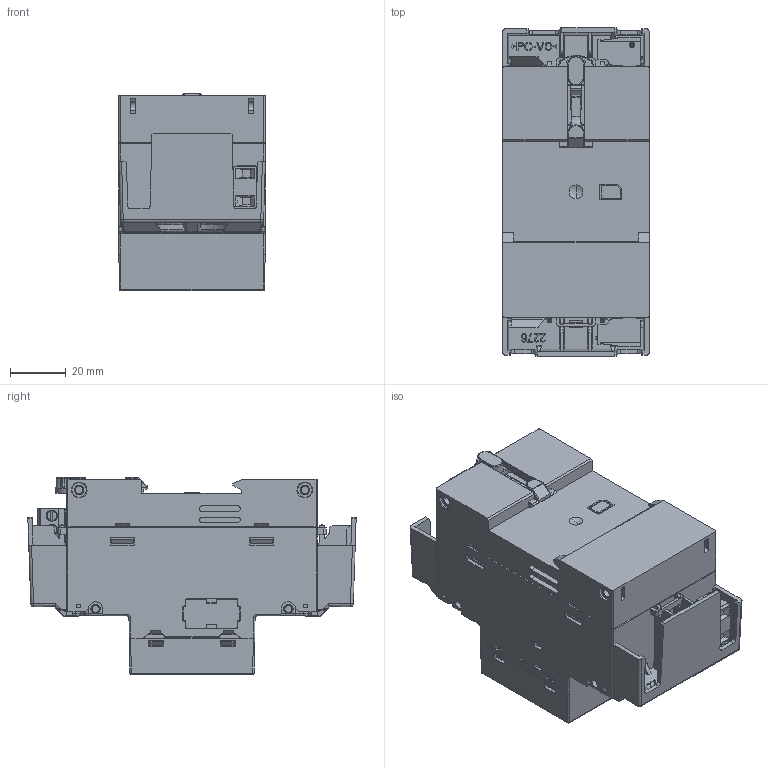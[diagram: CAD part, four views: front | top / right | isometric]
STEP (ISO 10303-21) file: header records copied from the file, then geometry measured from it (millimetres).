
FILE_DESCRIPTION((''),'2;1');
FILE_NAME('EDS_CLOUD','2020-07-17T10:30:32',('esors'),(''),'CREO PARAMETRIC BY PTC INC, 2018260','CREO PARAMETRIC BY PTC INC, 2018260','');
FILE_SCHEMA(('AUTOMOTIVE_DESIGN { 1 0 10303 214 1 1 1 1 }'));
Products named in the file (1): EDS_CLOUD
Bounding box: 52.5 x 117.85 x 70.7 mm (x, y, z)
Volume: 80258.1 mm3; surface area: 84254.9 mm2
Topology: 4 solids, 4 shells, 8486 faces, 24188 edges, 16016 vertices
Faces by surface type: plane 7462, cylinder 541, extrusion 248, cone 125, bspline 56, torus 40, sphere 14
Entity records: 282438 total; most frequent: CARTESIAN_POINT 61601, ORIENTED_EDGE 48348, DIRECTION 40226, EDGE_CURVE 24174, VECTOR 21862, LINE 21614, VERTEX_POINT 16016, AXIS2_PLACEMENT_3D 9182
